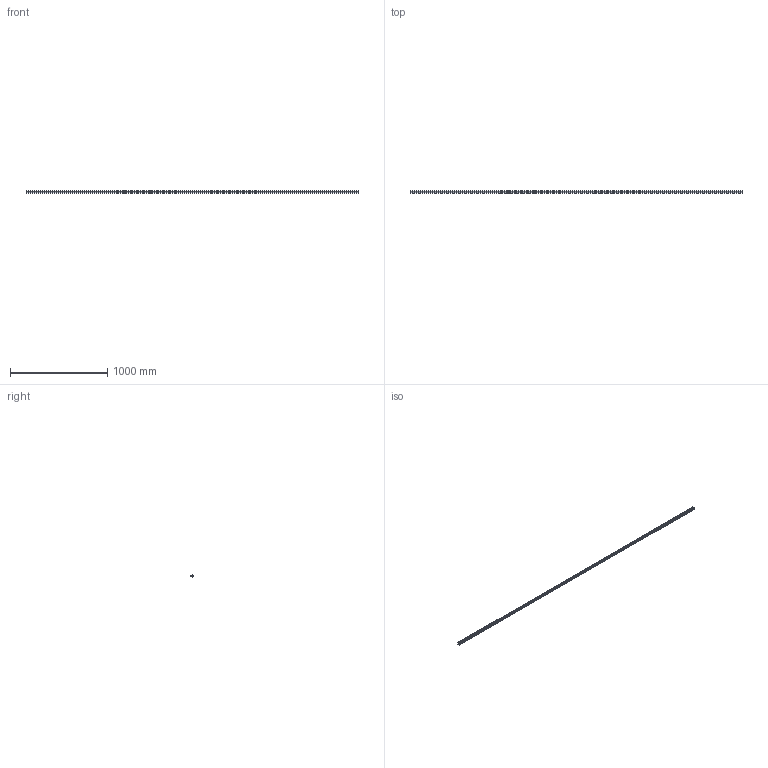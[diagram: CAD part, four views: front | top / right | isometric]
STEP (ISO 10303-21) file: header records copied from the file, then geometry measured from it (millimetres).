
FILE_DESCRIPTION (( 'STEP AP203' ), '1' );
FILE_NAME ('L1018.25R-3420.step', '2023-08-06T10:47:41', ( '' ), ( '' ), 'SwSTEP 2.0', 'SolidWorks 2019', '' );
FILE_SCHEMA (( 'CONFIG_CONTROL_DESIGN' ));
Length unit declared in the file: millimetre
Products named in the file (1): L1018.25R-3420
Bounding box: 3420 x 21.8 x 25 mm (x, y, z)
Volume: 1422337.3 mm3; surface area: 340451.2 mm2
Topology: 1 solids, 1 shells, 542 faces, 1221 edges, 681 vertices
Faces by surface type: cylinder 231, cone 228, plane 83
Entity records: 14336 total; most frequent: DIRECTION 2769, CARTESIAN_POINT 2331, ORIENTED_EDGE 2214, AXIS2_PLACEMENT_3D 1119, EDGE_CURVE 1107, VERTEX_POINT 681, EDGE_LOOP 656, CIRCLE 576
